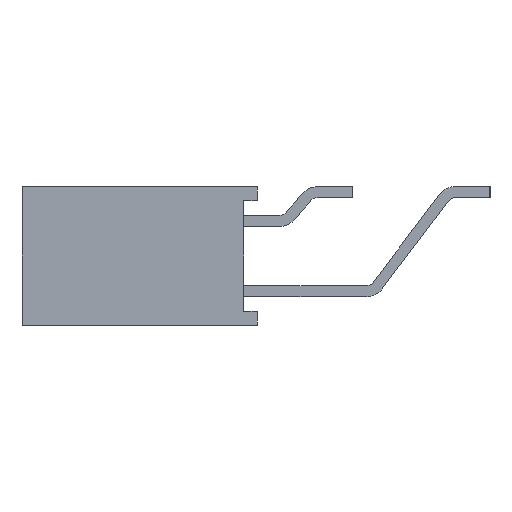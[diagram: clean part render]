
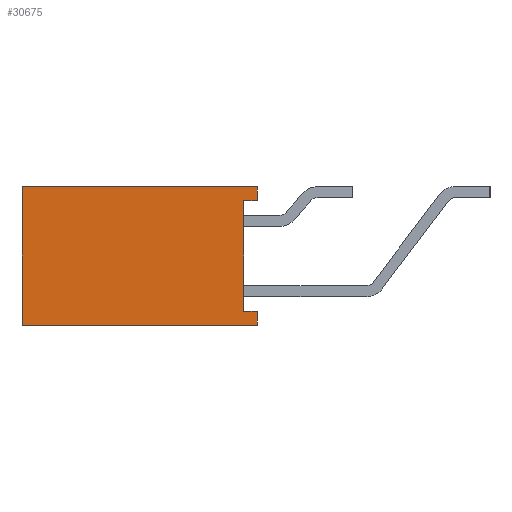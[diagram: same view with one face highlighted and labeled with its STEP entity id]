
A CAD part, left-side view. The second image highlights one B-rep face of the part: STEP entity #30675.
In plain terms, the highlighted planar face has unit normal (-1, 0, 0).
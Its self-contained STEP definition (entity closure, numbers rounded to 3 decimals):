
#1893 = CARTESIAN_POINT ( 'NONE',  ( -12.7, 0., -5. ) ) ;
#3134 = ORIENTED_EDGE ( 'NONE', *, *, #38273, .T. ) ;
#3164 = LINE ( 'NONE', #15206, #7306 ) ;
#3515 = CARTESIAN_POINT ( 'NONE',  ( -12.7, 0., -0.5 ) ) ;
#3554 = DIRECTION ( 'NONE',  ( 0., 0., 1. ) ) ;
#5542 = ORIENTED_EDGE ( 'NONE', *, *, #35600, .F. ) ;
#6291 = ORIENTED_EDGE ( 'NONE', *, *, #17658, .T. ) ;
#6610 = DIRECTION ( 'NONE',  ( 0., 0., 1. ) ) ;
#6747 = VERTEX_POINT ( 'NONE', #31870 ) ;
#7306 = VECTOR ( 'NONE', #14810, 1000. ) ;
#7602 = CARTESIAN_POINT ( 'NONE',  ( -12.7, 8.5, 0. ) ) ;
#8355 = CARTESIAN_POINT ( 'NONE',  ( -12.7, 0., 0. ) ) ;
#9456 = EDGE_CURVE ( 'NONE', #21562, #34362, #26418, .T. ) ;
#9818 = VERTEX_POINT ( 'NONE', #3515 ) ;
#10394 = DIRECTION ( 'NONE',  ( 0., -1., 0. ) ) ;
#10494 = DIRECTION ( 'NONE',  ( 0., 0., -1. ) ) ;
#10878 = VECTOR ( 'NONE', #11318, 1000. ) ;
#11234 = CARTESIAN_POINT ( 'NONE',  ( -12.7, 0., -5. ) ) ;
#11318 = DIRECTION ( 'NONE',  ( 0., 1., 0. ) ) ;
#11966 = LINE ( 'NONE', #23992, #37818 ) ;
#12023 = CARTESIAN_POINT ( 'NONE',  ( -12.7, 8.5, -5. ) ) ;
#12100 = LINE ( 'NONE', #8355, #10878 ) ;
#12243 = CARTESIAN_POINT ( 'NONE',  ( -12.7, 0., -5. ) ) ;
#12457 = VERTEX_POINT ( 'NONE', #18123 ) ;
#13913 = VERTEX_POINT ( 'NONE', #7602 ) ;
#14660 = EDGE_CURVE ( 'NONE', #35837, #13913, #12100, .T. ) ;
#14810 = DIRECTION ( 'NONE',  ( 0., 0., 1. ) ) ;
#15206 = CARTESIAN_POINT ( 'NONE',  ( -12.7, 0., -5. ) ) ;
#15587 = EDGE_CURVE ( 'NONE', #34664, #12457, #34739, .T. ) ;
#17202 = FACE_OUTER_BOUND ( 'NONE', #27430, .T. ) ;
#17311 = CARTESIAN_POINT ( 'NONE',  ( -12.7, 8.5, -5. ) ) ;
#17382 = PLANE ( 'NONE',  #37897 ) ;
#17658 = EDGE_CURVE ( 'NONE', #21562, #6747, #11966, .T. ) ;
#17878 = CARTESIAN_POINT ( 'NONE',  ( -12.7, 0., 0. ) ) ;
#18123 = CARTESIAN_POINT ( 'NONE',  ( -12.7, 0.5, -4.5 ) ) ;
#18168 = DIRECTION ( 'NONE',  ( -1., 0., 0. ) ) ;
#18522 = DIRECTION ( 'NONE',  ( 0., 0., 1. ) ) ;
#18662 = VECTOR ( 'NONE', #32098, 1000. ) ;
#20577 = ORIENTED_EDGE ( 'NONE', *, *, #9456, .F. ) ;
#20967 = EDGE_CURVE ( 'NONE', #34362, #13913, #36835, .T. ) ;
#21562 = VERTEX_POINT ( 'NONE', #1893 ) ;
#22865 = DIRECTION ( 'NONE',  ( 0., 1., 0. ) ) ;
#23285 = VECTOR ( 'NONE', #10494, 1000. ) ;
#23992 = CARTESIAN_POINT ( 'NONE',  ( -12.7, 0., -5. ) ) ;
#25123 = ORIENTED_EDGE ( 'NONE', *, *, #31954, .F. ) ;
#25268 = ORIENTED_EDGE ( 'NONE', *, *, #15587, .F. ) ;
#25977 = CARTESIAN_POINT ( 'NONE',  ( -12.7, 0., -0.5 ) ) ;
#26418 = LINE ( 'NONE', #11234, #30146 ) ;
#27064 = ORIENTED_EDGE ( 'NONE', *, *, #20967, .F. ) ;
#27430 = EDGE_LOOP ( 'NONE', ( #5542, #3134, #38648, #27064, #20577, #6291, #25123, #25268 ) ) ;
#29509 = LINE ( 'NONE', #25977, #18662 ) ;
#30146 = VECTOR ( 'NONE', #22865, 1000. ) ;
#30360 = VECTOR ( 'NONE', #10394, 1000. ) ;
#30675 = ADVANCED_FACE ( 'NONE', ( #17202 ), #17382, .T. ) ;
#31870 = CARTESIAN_POINT ( 'NONE',  ( -12.7, 0., -4.5 ) ) ;
#31954 = EDGE_CURVE ( 'NONE', #12457, #6747, #37808, .T. ) ;
#32098 = DIRECTION ( 'NONE',  ( 0., 1., 0. ) ) ;
#34362 = VERTEX_POINT ( 'NONE', #17311 ) ;
#34664 = VERTEX_POINT ( 'NONE', #37150 ) ;
#34739 = LINE ( 'NONE', #37493, #23285 ) ;
#35600 = EDGE_CURVE ( 'NONE', #9818, #34664, #29509, .T. ) ;
#35837 = VERTEX_POINT ( 'NONE', #17878 ) ;
#36835 = LINE ( 'NONE', #12023, #38974 ) ;
#37150 = CARTESIAN_POINT ( 'NONE',  ( -12.7, 0.5, -0.5 ) ) ;
#37405 = CARTESIAN_POINT ( 'NONE',  ( -12.7, 0., -4.5 ) ) ;
#37493 = CARTESIAN_POINT ( 'NONE',  ( -12.7, 0.5, -1.099 ) ) ;
#37808 = LINE ( 'NONE', #37405, #30360 ) ;
#37818 = VECTOR ( 'NONE', #6610, 1000. ) ;
#37897 = AXIS2_PLACEMENT_3D ( 'NONE', #12243, #18168, #3554 ) ;
#38273 = EDGE_CURVE ( 'NONE', #9818, #35837, #3164, .T. ) ;
#38648 = ORIENTED_EDGE ( 'NONE', *, *, #14660, .T. ) ;
#38974 = VECTOR ( 'NONE', #18522, 1000. ) ;
